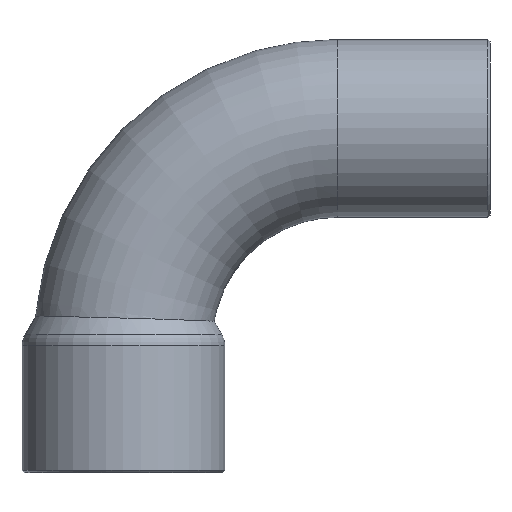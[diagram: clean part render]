
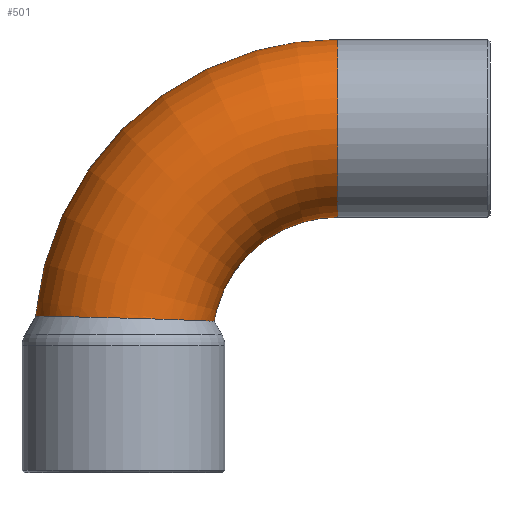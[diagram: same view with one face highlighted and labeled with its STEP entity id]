
A CAD part, left-side view. The second image highlights one B-rep face of the part: STEP entity #501.
In plain terms, the highlighted toroidal (fillet/blend) face has major radius 19.1 mm and minor radius 7.935 mm.
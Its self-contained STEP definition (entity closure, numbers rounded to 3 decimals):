
#121=CARTESIAN_POINT('',(7.935,0.,19.1));
#122=VERTEX_POINT('',#121);
#123=CARTESIAN_POINT('',(0.0,0.,19.1));
#124=DIRECTION('',(0.0,1.0,0.0));
#125=DIRECTION('',(-1.0,0.0,0.0));
#126=AXIS2_PLACEMENT_3D('',#123,#124,#125);
#127=CIRCLE('',#126,7.935);
#128=EDGE_CURVE('',#122,#122,#127,.T.);
#360=CARTESIAN_POINT('',(0.,26.932,2.354));
#361=VERTEX_POINT('',#360);
#362=CARTESIAN_POINT('',(0.,26.932,2.354));
#363=CARTESIAN_POINT('',(-0.99,26.932,2.354));
#364=CARTESIAN_POINT('',(-1.972,26.747,2.351));
#365=CARTESIAN_POINT('',(-3.87,26.001,2.336));
#366=CARTESIAN_POINT('',(-4.761,25.428,2.325));
#367=CARTESIAN_POINT('',(-6.269,23.966,2.295));
#368=CARTESIAN_POINT('',(-6.871,23.093,2.276));
#369=CARTESIAN_POINT('',(-7.702,21.162,2.231));
#370=CARTESIAN_POINT('',(-7.922,20.122,2.205));
#371=CARTESIAN_POINT('',(-7.947,18.015,2.149));
#372=CARTESIAN_POINT('',(-7.75,16.967,2.118));
#373=CARTESIAN_POINT('',(-6.969,15.028,2.056));
#374=CARTESIAN_POINT('',(-6.399,14.152,2.025));
#375=CARTESIAN_POINT('',(-5.029,12.741,1.971));
#376=CARTESIAN_POINT('',(-4.267,12.191,1.948));
#377=CARTESIAN_POINT('',(-2.739,11.455,1.916));
#378=CARTESIAN_POINT('',(-2.006,11.224,1.906));
#379=CARTESIAN_POINT('',(-0.814,11.032,1.897));
#380=CARTESIAN_POINT('',(-0.371,10.999,1.895));
#381=CARTESIAN_POINT('',(0.529,11.007,1.896));
#382=CARTESIAN_POINT('',(0.984,11.051,1.898));
#383=CARTESIAN_POINT('',(2.274,11.29,1.909));
#384=CARTESIAN_POINT('',(3.083,11.581,1.922));
#385=CARTESIAN_POINT('',(4.75,12.505,1.961));
#386=CARTESIAN_POINT('',(5.558,13.192,1.989));
#387=CARTESIAN_POINT('',(6.833,14.803,2.048));
#388=CARTESIAN_POINT('',(7.302,15.701,2.078));
#389=CARTESIAN_POINT('',(7.875,17.596,2.136));
#390=CARTESIAN_POINT('',(7.984,18.573,2.164));
#391=CARTESIAN_POINT('',(7.845,20.516,2.215));
#392=CARTESIAN_POINT('',(7.599,21.466,2.238));
#393=CARTESIAN_POINT('',(6.773,23.238,2.279));
#394=CARTESIAN_POINT('',(6.196,24.044,2.296));
#395=CARTESIAN_POINT('',(4.763,25.419,2.325));
#396=CARTESIAN_POINT('',(3.916,25.969,2.336));
#397=CARTESIAN_POINT('',(2.039,26.733,2.35));
#398=CARTESIAN_POINT('',(1.025,26.932,2.354));
#399=CARTESIAN_POINT('',(0.0,26.932,2.354));
#400=B_SPLINE_CURVE_WITH_KNOTS('',3,(#362,#363,#364,#365,#366,#367,#368,#369,#370,#371,#372,#373,#374,#375,#376,#377,#378,#379,#380,#381,#382,#383,#384,#385,#386,#387,#388,#389,#390,#391,#392,#393,#394,#395,#396,#397,#398,#399),.UNSPECIFIED.,.T.,.U.,(4,2,2,2,2,2,2,2,2,2,2,2,2,2,2,2,2,2,4),(-5.009,-4.712,-4.397,-4.082,-3.767,-3.45,-3.139,-2.86,-2.63,-2.497,-2.36,-2.104,-1.789,-1.487,-1.195,-0.903,-0.608,-0.307,0.0),.UNSPECIFIED.);
#401=EDGE_CURVE('',#361,#361,#400,.T.);
#490=CARTESIAN_POINT('',(0.0,0.0,0.0));
#491=DIRECTION('',(1.0,0.0,0.0));
#492=DIRECTION('',(0.0,0.0,-1.0));
#493=AXIS2_PLACEMENT_3D('',#490,#491,#492);
#494=TOROIDAL_SURFACE('',#493,19.1,7.935);
#495=ORIENTED_EDGE('',*,*,#128,.T.);
#496=EDGE_LOOP('',(#495));
#497=FACE_OUTER_BOUND('',#496,.T.);
#498=ORIENTED_EDGE('',*,*,#401,.T.);
#499=EDGE_LOOP('',(#498));
#500=FACE_BOUND('',#499,.T.);
#501=ADVANCED_FACE('',(#497,#500),#494,.T.);
